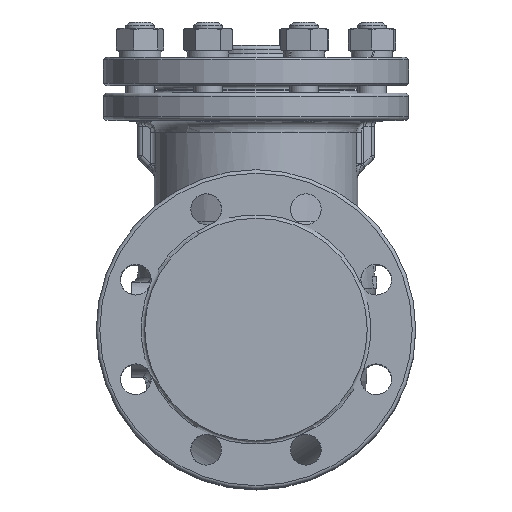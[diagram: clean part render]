
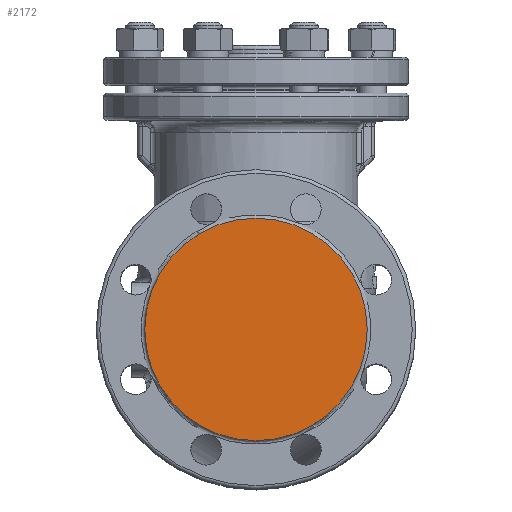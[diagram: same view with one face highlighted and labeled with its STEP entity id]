
A CAD part, top view. The second image highlights one B-rep face of the part: STEP entity #2172.
In plain terms, the highlighted planar face has unit normal (0, 0, 1).
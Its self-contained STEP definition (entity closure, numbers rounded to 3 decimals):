
#1163=FACE_OUTER_BOUND('',#3268,.T.);
#2172=ADVANCED_FACE('',(#1163),#2777,.F.);
#2777=PLANE('',#9680);
#3268=EDGE_LOOP('',(#4297));
#4297=ORIENTED_EDGE('',*,*,#7828,.F.);
#6956=VERTEX_POINT('',#32145);
#7828=EDGE_CURVE('',#6956,#6956,#9050,.T.);
#9050=CIRCLE('',#9679,94.);
#9679=AXIS2_PLACEMENT_3D('',#32144,#11014,#11015);
#9680=AXIS2_PLACEMENT_3D('',#32146,#11016,#11017);
#11014=DIRECTION('',(0.,0.,-1.));
#11015=DIRECTION('',(-1.,0.,0.));
#11016=DIRECTION('',(0.,0.,-1.));
#11017=DIRECTION('',(-1.,0.,0.));
#32144=CARTESIAN_POINT('',(0.,0.,200.));
#32145=CARTESIAN_POINT('',(-94.,0.,200.));
#32146=CARTESIAN_POINT('',(0.,0.,200.));
